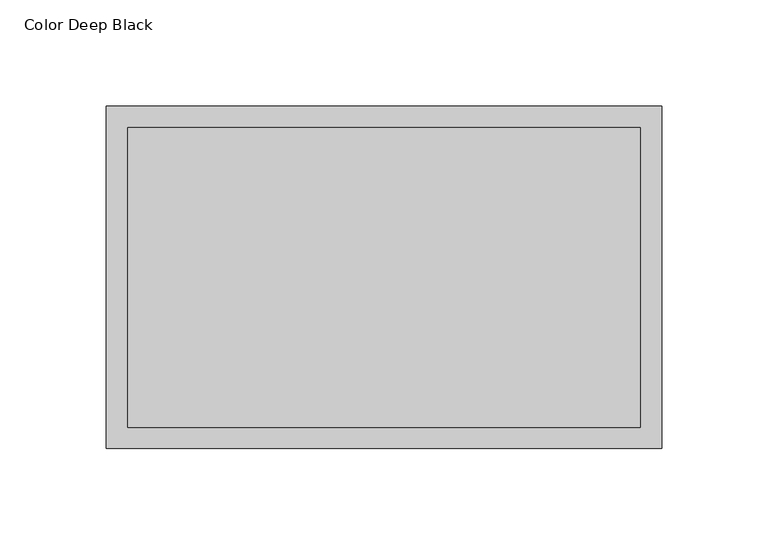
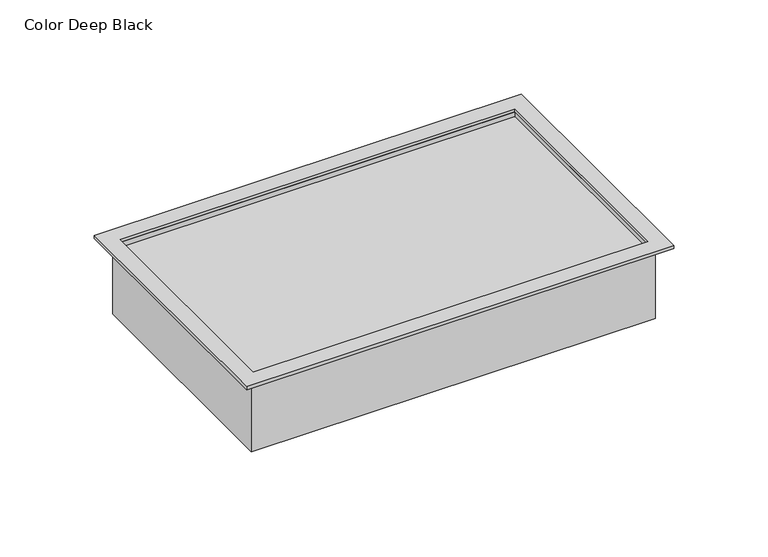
"""IFC4 building model written with IfcOpenShell, lengths in millimetres: proxy geometry, Electrical_Installation_Hager_VE-EE_Cover-BDE04 : Color Deep Black."""

import ifcopenshell
import ifcopenshell.guid

model = None  # the IFC model being written
_history = None  # IfcOwnerHistory: only IFC2X3 demands one
_inside = {}  # id of a spatial element -> (the spatial element, [elements in it])
_under = {}  # id of a project, library or spatial element -> (it, [spatial elements below it])
_declared = {}  # id of a project -> (the project, [libraries it declares])
_typed = {}  # id of a type object -> (the type object, [elements of that type])
_made_of = {}  # id of a material, layer set ... -> (it, [elements and type objects made of it])


def new_model(schema):
    """Start an empty IFC model of exactly this schema.

    Asked for "IFC4X3", IfcOpenShell would pick the latest addendum, in which some entities
    have other attributes; the version numbers below select the first issue.
    IFC2X3 requires an IfcOwnerHistory on every rooted entity: one is made here for all.
    """
    global model, _history
    if schema == "IFC4X3":
        model = ifcopenshell.file(schema_version=(4, 3, 0, 0))
    else:
        model = ifcopenshell.file(schema=schema)
    _inside.clear()
    _under.clear()
    _declared.clear()
    _typed.clear()
    _made_of.clear()
    _history = None
    if model.schema == "IFC2X3":
        org = make("IfcOrganization", Name="unknown")
        user = make(
            "IfcPersonAndOrganization",
            ThePerson=make("IfcPerson", FamilyName="unknown"),
            TheOrganization=org,
        )
        app = make(
            "IfcApplication",
            ApplicationDeveloper=org,
            Version="unknown",
            ApplicationFullName="unknown",
            ApplicationIdentifier="unknown",
        )
        _history = make(
            "IfcOwnerHistory",
            OwningUser=user,
            OwningApplication=app,
            ChangeAction="ADDED",
            CreationDate=0,
        )
    return model


def make(cls, **values):
    """One entity of the class cls with the attributes given. An attribute that is None is left unset."""
    return model.create_entity(
        cls, **{name: value for name, value in values.items() if value is not None}
    )


def rooted(cls, **values):
    """An entity with a GlobalId (a new one), such as an element, a storey or a relation."""
    return make(cls, GlobalId=ifcopenshell.guid.new(), OwnerHistory=_history, **values)


def si_unit(unit_type, name, prefix=None):
    """IfcSIUnit, for example si_unit("LENGTHUNIT", "METRE", prefix="MILLI")."""
    return make("IfcSIUnit", UnitType=unit_type, Prefix=prefix, Name=name)


def assignment(units):
    """IfcUnitAssignment: the units of a project."""
    return None if units is None else make("IfcUnitAssignment", Units=units)


def point(xyz):
    """IfcCartesianPoint."""
    return None if xyz is None else make("IfcCartesianPoint", Coordinates=xyz)


def direction(xyz):
    """IfcDirection."""
    return None if xyz is None else make("IfcDirection", DirectionRatios=xyz)


def frame(location, z_axis=None, x_axis=None):
    """IfcAxis2Placement3D, a coordinate frame: its origin and axes. An axis left out is left unset."""
    return make(
        "IfcAxis2Placement3D",
        Location=point(location),
        Axis=direction(z_axis),
        RefDirection=direction(x_axis),
    )


def origin():
    """The frame at (0, 0, 0) with its axes left unset."""
    return frame((0.0, 0.0, 0.0))


def origin_with_axes():
    """The frame at (0, 0, 0) with the z axis (0, 0, 1) and the x axis (1, 0, 0) written out."""
    return frame((0.0, 0.0, 0.0), z_axis=(0.0, 0.0, 1.0), x_axis=(1.0, 0.0, 0.0))


def place(relative_to, where):
    """IfcLocalPlacement: puts the frame where relative to a parent placement (None: the world)."""
    return make(
        "IfcLocalPlacement", PlacementRelTo=relative_to, RelativePlacement=where
    )


def context(
    kind, dimensions, precision=None, world=None, true_north=None, identifier=None
):
    """IfcGeometricRepresentationContext, for example the 3D "Model" context."""
    return make(
        "IfcGeometricRepresentationContext",
        ContextIdentifier=identifier,
        ContextType=kind,
        CoordinateSpaceDimension=dimensions,
        Precision=precision,
        WorldCoordinateSystem=world,
        TrueNorth=true_north,
    )


def project(units=None, contexts=None):
    """IfcProject with its units and contexts."""
    return rooted(
        "IfcProject",
        Name="project",
        RepresentationContexts=contexts,
        UnitsInContext=assignment(units),
    )


def spatial(cls, under=None, at=None, **own):
    """A site, building, storey or space (cls), placed at a placement, below another one or the project."""
    s = rooted(cls, ObjectPlacement=at, **own)
    if under is not None:
        _under.setdefault(under.id(), (under, []))[1].append(s)
    return s


def polyline(points):
    """IfcPolyline through the points."""
    return make("IfcPolyline", Points=[point(p) for p in points])


def outline(outer, holes=None, kind="AREA"):
    """IfcArbitraryClosedProfileDef: a profile drawn as a closed curve; with holes, ...WithVoids."""
    if holes is None:
        return make("IfcArbitraryClosedProfileDef", ProfileType=kind, OuterCurve=outer)
    return make(
        "IfcArbitraryProfileDefWithVoids",
        ProfileType=kind,
        OuterCurve=outer,
        InnerCurves=holes,
    )


def extrude(swept, where, along, depth):
    """IfcExtrudedAreaSolid: the profile swept, set in the frame where, extruded along a direction by depth."""
    return make(
        "IfcExtrudedAreaSolid",
        SweptArea=swept,
        Position=where,
        ExtrudedDirection=direction(along),
        Depth=depth,
    )


def shape(context_of_items, identifier, shape_type, items):
    """IfcShapeRepresentation: the items that make up one representation, for example the "Body"."""
    return make(
        "IfcShapeRepresentation",
        ContextOfItems=context_of_items,
        RepresentationIdentifier=identifier,
        RepresentationType=shape_type,
        Items=items,
    )


def source(mapping_origin, context_of_items, identifier, shape_type, items):
    """IfcRepresentationMap: a shape defined once, which mapped items show again and again."""
    return make(
        "IfcRepresentationMap",
        MappingOrigin=mapping_origin,
        MappedRepresentation=shape(context_of_items, identifier, shape_type, items),
    )


def transform(
    local_origin,
    x_axis=None,
    y_axis=None,
    z_axis=None,
    scale=None,
    scale2=None,
    scale3=None,
    uniform=True,
):
    """IfcCartesianTransformationOperator3D, or its non-uniform kind. x_axis, y_axis, z_axis: its Axis1, 2, 3."""
    if uniform:
        return make(
            "IfcCartesianTransformationOperator3D",
            Axis1=direction(x_axis),
            Axis2=direction(y_axis),
            LocalOrigin=point(local_origin),
            Scale=scale,
            Axis3=direction(z_axis),
        )
    return make(
        "IfcCartesianTransformationOperator3DnonUniform",
        Axis1=direction(x_axis),
        Axis2=direction(y_axis),
        LocalOrigin=point(local_origin),
        Scale=scale,
        Axis3=direction(z_axis),
        Scale2=scale2,
        Scale3=scale3,
    )


def mapped(mapping_source, mapping_target):
    """IfcMappedItem: shows the shape of a source again, moved by a transform."""
    return make(
        "IfcMappedItem", MappingSource=mapping_source, MappingTarget=mapping_target
    )


def made_of(thing, what):
    """Note that an element or type object is made of a material, layer set ...; save() writes the relation."""
    if what is not None:
        _made_of.setdefault(what.id(), (what, []))[1].append(thing)
    return thing


def element(
    cls,
    number,
    at=None,
    inside=None,
    cuts=None,
    type_object=None,
    material=None,
    context=None,
    identifier="Body",
    shape_type=None,
    held_by="IfcProductDefinitionShape",
    body=None,
    shapes=None,
    **own,
):
    """One element of the class cls, such as IfcWall. Its Tag is "e" and its number.

    at: its placement. inside: the storey or other place that contains it. cuts: it is an
    opening in that element (IfcRelVoidsElement). A single representation is given by context,
    identifier, shape_type and body (its items); several are given by shapes. held_by: the class
    of the entity that holds the representations. save() writes the other relations.
    """
    e = rooted(cls, Tag="e%d" % number, ObjectPlacement=at, **own)
    if body is not None:
        shapes = [shape(context, identifier, shape_type, body)]
    if shapes is not None:
        e.Representation = make(held_by, Representations=shapes)
    if inside is not None:
        _inside.setdefault(inside.id(), (inside, []))[1].append(e)
    if cuts is not None:
        rooted(
            "IfcRelVoidsElement", RelatingBuildingElement=cuts, RelatedOpeningElement=e
        )
    if type_object is not None:
        _typed.setdefault(type_object.id(), (type_object, []))[1].append(e)
    return made_of(e, material)


def aggregate(whole, parts):
    """IfcRelAggregates: a whole, such as a stair, and the parts it consists of."""
    return rooted("IfcRelAggregates", RelatingObject=whole, RelatedObjects=parts)


def save(model, path):
    """Write the relations noted so far, then the file.

    IfcRelAggregates (storeys below a building ...), IfcRelContainedInSpatialStructure (elements
    in a storey), IfcRelDefinesByType, IfcRelAssociatesMaterial and IfcRelDeclares: one each for
    every whole, place, type object, material and project.
    """
    for whole, parts in _under.values():
        aggregate(whole, parts)
    for where, things in _inside.values():
        rooted(
            "IfcRelContainedInSpatialStructure",
            RelatedElements=things,
            RelatingStructure=where,
        )
    for kind, things in _typed.values():
        rooted("IfcRelDefinesByType", RelatedObjects=things, RelatingType=kind)
    for what, things in _made_of.values():
        rooted("IfcRelAssociatesMaterial", RelatedObjects=things, RelatingMaterial=what)
    for by, libraries in _declared.values():
        rooted("IfcRelDeclares", RelatingContext=by, RelatedDefinitions=libraries)
    model.write(path)


def color_deep_black_c4cdae59(model_context):
    return source(origin(), model_context, "Body", "SweptSolid", [
        extrude(outline(polyline([(120.5, 70.5), (120.5, -70.5), (-120.5, -70.5), (-120.5, 70.5), (120.5, 70.5)])), frame((0.0, 0.0, -8.0), z_axis=(0.0, 0.0, 1.0), x_axis=(1.0, 0.0, 0.0)), (0.0, 0.0, 1.0), 5.0),
        extrude(outline(polyline([(123.5, -73.5), (-123.5, -73.5), (-123.5, 73.5), (123.5, 73.5), (123.5, -73.5)]), holes=[polyline([(120.5, -70.5), (120.5, 70.5), (-120.5, 70.5), (-120.5, -70.5), (120.5, -70.5)])]), frame((0.0, 0.0, -47.0), z_axis=(0.0, 0.0, 1.0), x_axis=(1.0, 0.0, 0.0)), (0.0, 0.0, 1.0), 47.0),
        extrude(outline(polyline([(130.5, 80.5), (130.5, -80.5), (-130.5, -80.5), (-130.5, 80.5), (130.5, 80.5)]), holes=[polyline([(120.5, 70.5), (-120.5, 70.5), (-120.5, -70.5), (120.5, -70.5), (120.5, 70.5)])]), origin_with_axes(), (0.0, 0.0, 1.0), 2.0),
    ])


if __name__ == "__main__":
    model = new_model("IFC4")
    model_context = context("Model", 3, world=origin())
    ifc_project = project(units=[si_unit("LENGTHUNIT", "METRE", prefix="MILLI")], contexts=[model_context])
    site = spatial("IfcSite", under=ifc_project)
    building = spatial("IfcBuilding", under=site)
    placement = place(None, origin())
    color_deep_black_shape = color_deep_black_c4cdae59(model_context)
    element("IfcBuildingElementProxy", 1, Name="Electrical_Installation_Hager_VE-EE_Cover-BDE04 : Color Deep Black", ObjectType="Electrical_Installation_Hager_VE-EE_Cover-BDE04 : Color Deep Black", at=placement, inside=building, context=model_context, shape_type="MappedRepresentation", body=[
        mapped(color_deep_black_shape, transform((0.0, 0.0, 0.0), x_axis=(1.0, 0.0, 0.0), y_axis=(0.0, 1.0, 0.0), z_axis=(0.0, 0.0, 1.0))),
    ])
    save(model, "model.ifc")
